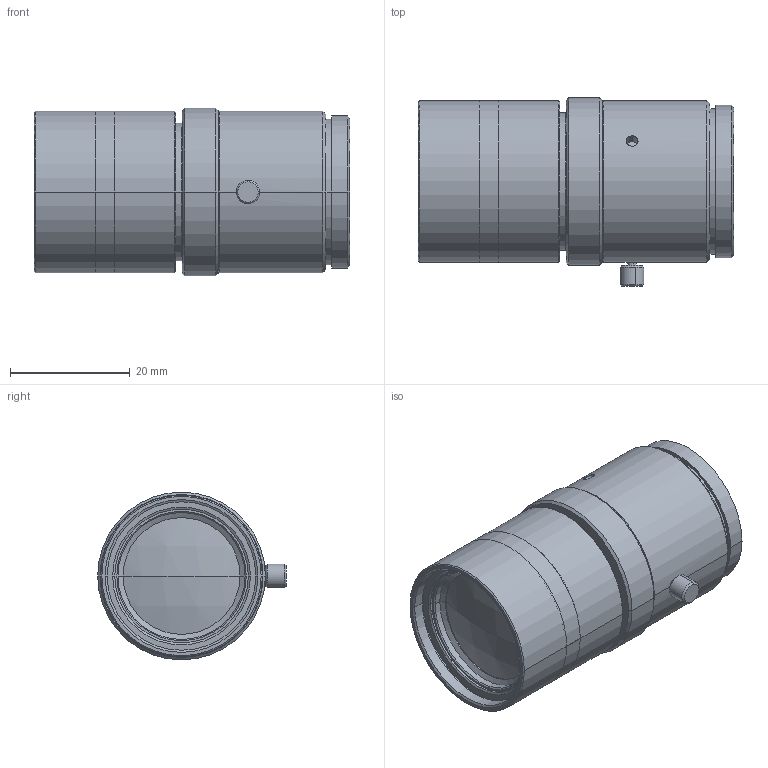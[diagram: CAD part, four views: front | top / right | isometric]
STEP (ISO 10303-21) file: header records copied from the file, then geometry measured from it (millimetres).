
FILE_DESCRIPTION (( 'STEP AP214' ), '1' );
FILE_NAME ('M1240-MPW2-R.STEP', '2021-04-19T23:28:28', ( '' ), ( '' ), 'SwSTEP 2.0', 'SolidWorks 2021', '' );
FILE_SCHEMA (( 'AUTOMOTIVE_DESIGN' ));
Length unit declared in the file: millimetre
Products named in the file (4): ロックビス; M1240-MPW2-R_MechanicalLimit; M1240-MPW2-R; M1240-MPW2-R_Infinity
Assembly tree (3 placements, depth 2):
  M1240-MPW2-R
    M1240-MPW2-R_Infinity
    M1240-MPW2-R_MechanicalLimit
    ロックビス
Bounding box: 52.7 x 31.5 x 28 mm (x, y, z)
Volume: 42844.8 mm3; surface area: 15010.2 mm2
Topology: 3 solids, 3 shells, 246 faces, 488 edges, 294 vertices
Faces by surface type: cylinder 98, cone 90, plane 50, sphere 8
Entity records: 9196 total; most frequent: DIRECTION 1266, CARTESIAN_POINT 1226, ORIENTED_EDGE 976, AXIS2_PLACEMENT_3D 538, EDGE_CURVE 488, VERTEX_POINT 294, EDGE_LOOP 292, CIRCLE 286
